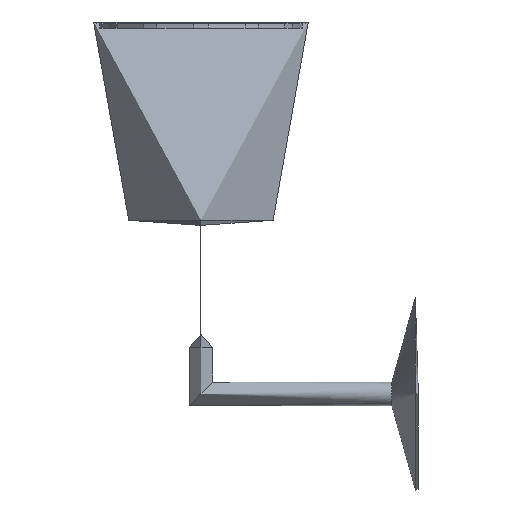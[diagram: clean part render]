
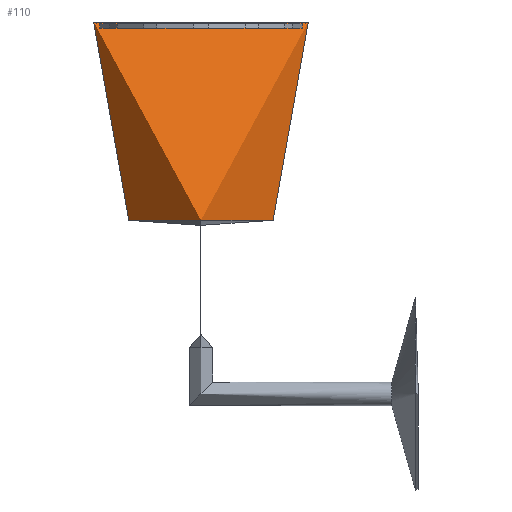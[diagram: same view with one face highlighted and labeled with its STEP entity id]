
A CAD part, front view. The second image highlights one B-rep face of the part: STEP entity #110.
In plain terms, the highlighted free-form (B-spline) face has degree [2, 2] with [5, 5] control points.
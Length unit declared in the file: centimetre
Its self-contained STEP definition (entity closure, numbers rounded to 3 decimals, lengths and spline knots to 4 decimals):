
#33=(
BOUNDED_SURFACE()
B_SPLINE_SURFACE(2,2,((#2237,#2238,#2239,#2240,#2241),(#2242,#2243,#2244,
#2245,#2246),(#2247,#2248,#2249,#2250,#2251),(#2252,#2253,#2254,#2255,#2256),
(#2257,#2258,#2259,#2260,#2261)),.UNSPECIFIED.,.F.,.F.,.F.)
B_SPLINE_SURFACE_WITH_KNOTS((3,2,3),(3,2,3),(232.8757,349.3136,
465.7514),(0.,155.9759,311.9517),.UNSPECIFIED.)
GEOMETRIC_REPRESENTATION_ITEM()
RATIONAL_B_SPLINE_SURFACE(((1.,0.868,1.,0.868,1.),
(0.707,0.613,0.707,0.613,
0.707),(1.,0.868,1.,0.868,1.),(0.707,
0.613,0.707,0.613,0.707),
(1.,0.868,1.,0.868,1.)))
REPRESENTATION_ITEM('')
SURFACE()
);
#110=ADVANCED_FACE('',(#175),#33,.T.);
#175=FACE_OUTER_BOUND('',#247,.T.);
#247=EDGE_LOOP('',(#551,#552,#553,#554,#555));
#551=ORIENTED_EDGE('',*,*,#739,.T.);
#552=ORIENTED_EDGE('',*,*,#737,.T.);
#553=ORIENTED_EDGE('',*,*,#698,.T.);
#554=ORIENTED_EDGE('',*,*,#696,.F.);
#555=ORIENTED_EDGE('',*,*,#738,.F.);
#696=EDGE_CURVE('',#1002,#999,#869,.T.);
#698=EDGE_CURVE('',#1000,#999,#871,.T.);
#737=EDGE_CURVE('',#1023,#1000,#906,.T.);
#738=EDGE_CURVE('',#1024,#1002,#907,.T.);
#739=EDGE_CURVE('',#1024,#1023,#908,.T.);
#869=(
BOUNDED_CURVE()
B_SPLINE_CURVE(2,(#2621,#2622,#2623,#2624,#2625),.UNSPECIFIED.,.F.,.F.)
B_SPLINE_CURVE_WITH_KNOTS((3,2,3),(-215.8663,-107.9331,
0.),.UNSPECIFIED.)
CURVE()
GEOMETRIC_REPRESENTATION_ITEM()
RATIONAL_B_SPLINE_CURVE((1.,0.707,1.,0.707,1.))
REPRESENTATION_ITEM('')
);
#871=(
BOUNDED_CURVE()
B_SPLINE_CURVE(2,(#2629,#2630,#2631),.UNSPECIFIED.,.F.,.F.)
B_SPLINE_CURVE_WITH_KNOTS((3,3),(63.0248,196.3737),
 .UNSPECIFIED.)
CURVE()
GEOMETRIC_REPRESENTATION_ITEM()
RATIONAL_B_SPLINE_CURVE((1.,0.903,1.))
REPRESENTATION_ITEM('')
);
#906=(
BOUNDED_CURVE()
B_SPLINE_CURVE(2,(#2764,#2765,#2766),.UNSPECIFIED.,.F.,.F.)
B_SPLINE_CURVE_WITH_KNOTS((3,3),(217.7221,290.2962),
 .UNSPECIFIED.)
CURVE()
GEOMETRIC_REPRESENTATION_ITEM()
RATIONAL_B_SPLINE_CURVE((1.,0.707,1.))
REPRESENTATION_ITEM('')
);
#907=(
BOUNDED_CURVE()
B_SPLINE_CURVE(2,(#2767,#2768,#2769),.UNSPECIFIED.,.F.,.F.)
B_SPLINE_CURVE_WITH_KNOTS((3,3),(63.0248,196.3737),
 .UNSPECIFIED.)
CURVE()
GEOMETRIC_REPRESENTATION_ITEM()
RATIONAL_B_SPLINE_CURVE((1.,0.903,1.))
REPRESENTATION_ITEM('')
);
#908=(
BOUNDED_CURVE()
B_SPLINE_CURVE(2,(#2770,#2771,#2772),.UNSPECIFIED.,.F.,.F.)
B_SPLINE_CURVE_WITH_KNOTS((3,3),(145.1481,217.7221),
 .UNSPECIFIED.)
CURVE()
GEOMETRIC_REPRESENTATION_ITEM()
RATIONAL_B_SPLINE_CURVE((1.,0.707,1.))
REPRESENTATION_ITEM('')
);
#999=VERTEX_POINT('',#2483);
#1000=VERTEX_POINT('',#2484);
#1002=VERTEX_POINT('',#2486);
#1023=VERTEX_POINT('',#2507);
#1024=VERTEX_POINT('',#2508);
#2237=CARTESIAN_POINT('',(4135.9808,-3941.0375,68.9981));
#2238=CARTESIAN_POINT('',(4061.8542,-3941.0375,112.3876));
#2239=CARTESIAN_POINT('',(4061.8542,-3941.0375,198.2794));
#2240=CARTESIAN_POINT('',(4061.8542,-3941.0375,284.1712));
#2241=CARTESIAN_POINT('',(4135.9808,-3941.0375,327.5607));
#2242=CARTESIAN_POINT('',(4135.9808,-3941.0375,68.9981));
#2243=CARTESIAN_POINT('',(4061.8542,-4015.1641,112.3876));
#2244=CARTESIAN_POINT('',(4061.8542,-4015.1641,198.2794));
#2245=CARTESIAN_POINT('',(4061.8542,-4015.1641,284.1712));
#2246=CARTESIAN_POINT('',(4135.9808,-3941.0375,327.5607));
#2247=CARTESIAN_POINT('',(4135.9808,-3941.0375,68.9981));
#2248=CARTESIAN_POINT('',(4135.9808,-4015.1641,112.3876));
#2249=CARTESIAN_POINT('',(4135.9808,-4015.1641,198.2794));
#2250=CARTESIAN_POINT('',(4135.9808,-4015.1641,284.1712));
#2251=CARTESIAN_POINT('',(4135.9808,-3941.0375,327.5607));
#2252=CARTESIAN_POINT('',(4135.9808,-3941.0375,68.9981));
#2253=CARTESIAN_POINT('',(4210.1075,-4015.1641,112.3876));
#2254=CARTESIAN_POINT('',(4210.1075,-4015.1641,198.2794));
#2255=CARTESIAN_POINT('',(4210.1075,-4015.1641,284.1712));
#2256=CARTESIAN_POINT('',(4135.9808,-3941.0375,327.5607));
#2257=CARTESIAN_POINT('',(4135.9808,-3941.0375,68.9981));
#2258=CARTESIAN_POINT('',(4210.1075,-3941.0375,112.3876));
#2259=CARTESIAN_POINT('',(4210.1075,-3941.0375,198.2794));
#2260=CARTESIAN_POINT('',(4210.1075,-3941.0375,284.1712));
#2261=CARTESIAN_POINT('',(4135.9808,-3941.0375,327.5607));
#2483=CARTESIAN_POINT('',(4204.6932,-3941.0375,238.1894));
#2484=CARTESIAN_POINT('',(4182.1829,-3941.0375,111.1792));
#2486=CARTESIAN_POINT('',(4067.2685,-3941.0375,238.1894));
#2507=CARTESIAN_POINT('',(4135.9808,-3987.2396,111.1792));
#2508=CARTESIAN_POINT('',(4089.7788,-3941.0375,111.1792));
#2621=CARTESIAN_POINT('',(4067.2685,-3941.0375,238.1894));
#2622=CARTESIAN_POINT('',(4067.2685,-4009.7499,238.1894));
#2623=CARTESIAN_POINT('',(4135.9808,-4009.7499,238.1894));
#2624=CARTESIAN_POINT('',(4204.6932,-4009.7499,238.1894));
#2625=CARTESIAN_POINT('',(4204.6932,-3941.0375,238.1894));
#2629=CARTESIAN_POINT('',(4182.1829,-3941.0375,111.1792));
#2630=CARTESIAN_POINT('',(4223.7308,-3941.0375,169.3155));
#2631=CARTESIAN_POINT('',(4204.6932,-3941.0375,238.1894));
#2764=CARTESIAN_POINT('',(4135.9808,-3987.2396,111.1792));
#2765=CARTESIAN_POINT('',(4182.1829,-3987.2396,111.1792));
#2766=CARTESIAN_POINT('',(4182.1829,-3941.0375,111.1792));
#2767=CARTESIAN_POINT('',(4089.7788,-3941.0375,111.1792));
#2768=CARTESIAN_POINT('',(4048.2309,-3941.0375,169.3155));
#2769=CARTESIAN_POINT('',(4067.2685,-3941.0375,238.1894));
#2770=CARTESIAN_POINT('',(4089.7788,-3941.0375,111.1792));
#2771=CARTESIAN_POINT('',(4089.7788,-3987.2396,111.1792));
#2772=CARTESIAN_POINT('',(4135.9808,-3987.2396,111.1792));
